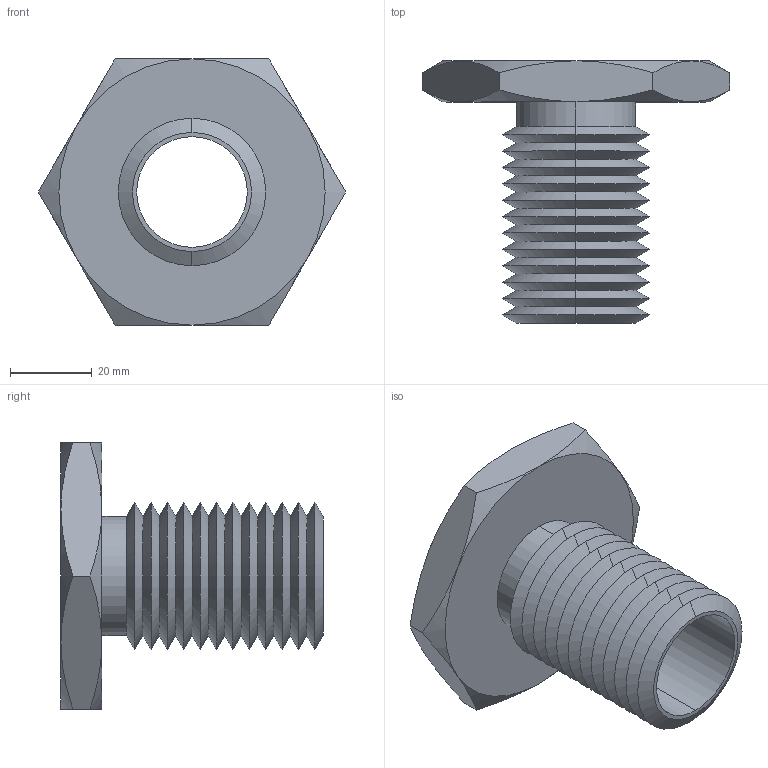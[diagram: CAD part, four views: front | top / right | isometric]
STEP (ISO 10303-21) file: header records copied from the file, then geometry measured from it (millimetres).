
FILE_DESCRIPTION (( 'STEP AP203' ), '1' );
FILE_NAME ('63302.W0036_M27x3.step', '2013-12-08T11:10:56', ( 'User' ), ( '' ), 'SwSTEP 2.0', 'SolidWorks 2009', '' );
FILE_SCHEMA (( 'CONFIG_CONTROL_DESIGN' ));
Length unit declared in the file: millimetre
Products named in the file (1): 63302.W0036_M27x3
Bounding box: 75.06 x 64 x 65 mm (x, y, z)
Volume: 42980.8 mm3; surface area: 23733.4 mm2
Topology: 1 solids, 1 shells, 75 faces, 154 edges, 82 vertices
Faces by surface type: cone 62, plane 9, cylinder 4
Entity records: 2139 total; most frequent: CARTESIAN_POINT 496, DIRECTION 352, ORIENTED_EDGE 308, EDGE_CURVE 154, AXIS2_PLACEMENT_3D 146, VERTEX_POINT 82, EDGE_LOOP 78, ADVANCED_FACE 75
